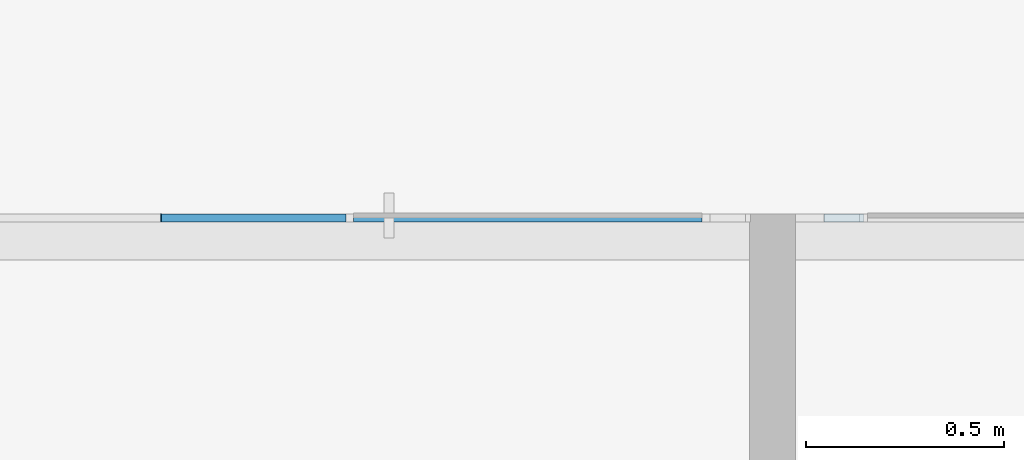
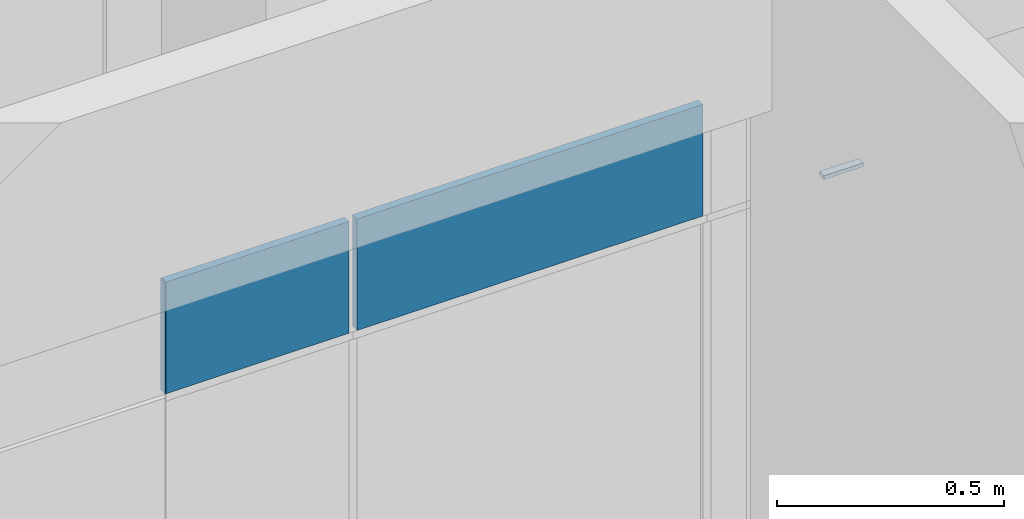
# One storey, part 40 of 73: 4 plates, 2 elements without a shape of their own.
"""IFC2X3 building model written with IfcOpenShell, lengths in millimetres."""

from ifc_helpers import new_model, entity, si_unit, converted_unit, derived_unit, direction, frame, origin, origin_2d_with_axis, place, context, subcontext, project, spatial, rectangle, extrude, source, transform, mapped, material, layer, layer_set, layer_usage, type_object, type_shapes, element, aggregate, save


model = new_model("IFC2X3")

# Units and contexts
model_context = context("Model", 3, precision=0.01, world=origin(), true_north=direction((6.12303176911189e-17, 1.0)))
body_context = subcontext(model_context, "Body", "Model", "MODEL_VIEW")
ifc_project = project(units=[si_unit("LENGTHUNIT", "METRE", prefix="MILLI"), si_unit("AREAUNIT", "SQUARE_METRE"), si_unit("VOLUMEUNIT", "CUBIC_METRE"), converted_unit("PLANEANGLEUNIT", "DEGREE", entity("IfcRatioMeasure", 0.0174532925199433), si_unit("PLANEANGLEUNIT", "RADIAN"), dimensions=[0, 0, 0, 0, 0, 0, 0]), si_unit("MASSUNIT", "GRAM", prefix="KILO"), derived_unit("MASSDENSITYUNIT", [(si_unit("MASSUNIT", "GRAM", prefix="KILO"), 1), (si_unit("LENGTHUNIT", "METRE"), -3)]), si_unit("TIMEUNIT", "SECOND"), si_unit("FREQUENCYUNIT", "HERTZ"), si_unit("THERMODYNAMICTEMPERATUREUNIT", "DEGREE_CELSIUS"), derived_unit("THERMALTRANSMITTANCEUNIT", [(si_unit("MASSUNIT", "GRAM", prefix="KILO"), 1), (si_unit("THERMODYNAMICTEMPERATUREUNIT", "KELVIN"), -1), (si_unit("TIMEUNIT", "SECOND"), -3)]), derived_unit("VOLUMETRICFLOWRATEUNIT", [(si_unit("LENGTHUNIT", "METRE"), 3), (si_unit("TIMEUNIT", "SECOND"), -1)]), si_unit("ELECTRICCURRENTUNIT", "AMPERE"), si_unit("ELECTRICVOLTAGEUNIT", "VOLT"), si_unit("POWERUNIT", "WATT"), si_unit("FORCEUNIT", "NEWTON", prefix="KILO"), si_unit("ILLUMINANCEUNIT", "LUX"), si_unit("LUMINOUSFLUXUNIT", "LUMEN"), si_unit("LUMINOUSINTENSITYUNIT", "CANDELA"), derived_unit("USERDEFINED", [(si_unit("MASSUNIT", "GRAM", prefix="KILO"), -1), (si_unit("LENGTHUNIT", "METRE"), -2), (si_unit("TIMEUNIT", "SECOND"), 3), (si_unit("LUMINOUSFLUXUNIT", "LUMEN"), 1)]), derived_unit("LINEARVELOCITYUNIT", [(si_unit("LENGTHUNIT", "METRE"), 1), (si_unit("TIMEUNIT", "SECOND"), -1)]), si_unit("PRESSUREUNIT", "PASCAL"), derived_unit("USERDEFINED", [(si_unit("LENGTHUNIT", "METRE"), -2), (si_unit("MASSUNIT", "GRAM", prefix="KILO"), 1), (si_unit("TIMEUNIT", "SECOND"), -2)])], contexts=[model_context])

# Site, building, storey
site_placement = place(None, frame((-151.875543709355, 2715.0, 0.0)))
site = spatial("IfcSite", under=ifc_project, at=site_placement, Name="Surface", CompositionType="ELEMENT")
building_placement = place(site_placement, origin())
building = spatial("IfcBuilding", under=site, at=building_placement, CompositionType="ELEMENT")
storey_placement = place(building_placement, frame((0.0, 0.0, 6730.43000000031)))
storey = spatial("IfcBuildingStorey", under=building, at=storey_placement, Name="3 korrus", CompositionType="ELEMENT", Elevation=6730.43000000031)

# Curtain wall, plate
curtain_wall_type_1 = type_object("IfcCurtainWallType", Name="Curtain Wall:Klaassein KLS-17", PredefinedType="NOTDEFINED")
curtain_wall_1_placement = place(storey_placement, frame((0.0, 0.0, -6730.43000000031)))
curtain_wall_1 = element("IfcCurtainWall", 1, at=curtain_wall_1_placement, inside=storey, type_object=curtain_wall_type_1, Name="Curtain Wall:Klaassein KLS-17", ObjectType="Curtain Wall:Klaassein KLS-17")
ifc_material = material(Name="<Unnamed>")
ifc_layer = layer(ifc_material, 20.0)
ifc_layer_set = layer_set([ifc_layer], Name="Curtain Wall:Klaassein KLS-01")
ifc_layer_usage_1 = layer_usage(ifc_layer_set, "AXIS3", "POSITIVE", 0.0)
plate_type_1 = type_object("IfcPlateType", Name="Glazed", PredefinedType="CURTAIN_PANEL", material=ifc_layer_set)
shared_shape_1 = source(origin(), body_context, "Body", "SweptSolid", [
    extrude(rectangle(XDim=20.0, YDim=879.999999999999, at=origin_2d_with_axis()), frame((0.0, 0.0, 0.0), z_axis=(0.0, 0.0, 1.0), x_axis=(0.0, 1.0, 0.0)), (0.0, 0.0, 1.0), 299.999999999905),
])
type_shapes(plate_type_1, [shared_shape_1])
plate_1_placement = place(curtain_wall_1_placement, frame((14841.5647264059, 4355.04493399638, 8830.43000000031)))
plate_1 = element("IfcPlate", 2, at=plate_1_placement, type_object=plate_type_1, material=ifc_layer_usage_1, Name="System Panel:Glazed", ObjectType="Glazed", context=body_context, shape_type="MappedRepresentation", body=[
    mapped(shared_shape_1, transform((0.0, 0.0, 0.0), scale=1.0)),
])

curtain_wall_type_2 = type_object("IfcCurtainWallType", Name="Curtain Wall:Klaassein KLS-18", PredefinedType="NOTDEFINED")
curtain_wall_2_placement = place(storey_placement, frame((0.0, 0.0, -6730.43000000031)))
curtain_wall_2 = element("IfcCurtainWall", 3, at=curtain_wall_2_placement, inside=storey, type_object=curtain_wall_type_2, Name="Curtain Wall:Klaassein KLS-18", ObjectType="Curtain Wall:Klaassein KLS-18")
ifc_layer_usage_2 = layer_usage(ifc_layer_set, "AXIS3", "POSITIVE", 0.0)
plate_type_2 = type_object("IfcPlateType", Name="Glazed", PredefinedType="CURTAIN_PANEL", material=ifc_layer_set)
shared_shape_2 = source(origin(), body_context, "Body", "SweptSolid", [
    extrude(rectangle(XDim=20.0, YDim=99.9999999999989, at=origin_2d_with_axis()), frame((0.0, 0.0, 0.0), z_axis=(0.0, 0.0, 1.0), x_axis=(0.0, 1.0, 0.0)), (0.0, 0.0, 1.0), 9.99999999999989),
])
type_shapes(plate_type_2, [shared_shape_2])
plate_2_placement = place(curtain_wall_2_placement, frame((15639.4201096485, 4355.04493399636, 8820.43000000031)))
plate_2 = element("IfcPlate", 4, at=plate_2_placement, type_object=plate_type_2, material=ifc_layer_usage_2, Name="System Panel:Glazed", ObjectType="Glazed", context=body_context, shape_type="MappedRepresentation", body=[
    mapped(shared_shape_2, transform((0.0, 0.0, 0.0), scale=1.0)),
])
aggregate(curtain_wall_2, [plate_2])

# Plate
ifc_layer_usage_3 = layer_usage(ifc_layer_set, "AXIS3", "POSITIVE", 0.0)
plate_type_3 = type_object("IfcPlateType", Name="Glazed", PredefinedType="CURTAIN_PANEL", material=ifc_layer_set)
shared_shape_3 = source(origin(), body_context, "Body", "SweptSolid", [
    extrude(rectangle(XDim=20.0, YDim=1.99999969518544, at=origin_2d_with_axis()), frame((0.0, 0.0, 0.0), z_axis=(0.0, 0.0, 1.0), x_axis=(0.0, 1.0, 0.0)), (0.0, 0.0, 1.0), 299.999999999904),
])
type_shapes(plate_type_3, [shared_shape_3])
plate_3_placement = place(curtain_wall_1_placement, frame((13914.5647265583, 4355.04493399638, 8830.43000000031)))
plate_3 = element("IfcPlate", 5, at=plate_3_placement, type_object=plate_type_3, material=ifc_layer_usage_3, Name="System Panel:Glazed", ObjectType="Glazed", context=body_context, shape_type="MappedRepresentation", body=[
    mapped(shared_shape_3, transform((0.0, 0.0, 0.0), scale=1.0)),
])

ifc_layer_usage_4 = layer_usage(ifc_layer_set, "AXIS3", "POSITIVE", 0.0)
plate_type_4 = type_object("IfcPlateType", Name="Glazed", PredefinedType="CURTAIN_PANEL", material=ifc_layer_set)
shared_shape_4 = source(origin(), body_context, "Body", "SweptSolid", [
    extrude(rectangle(XDim=20.0, YDim=466.000000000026, at=origin_2d_with_axis()), frame((0.0, 0.0, 0.0), z_axis=(0.0, 0.0, 1.0), x_axis=(0.0, 1.0, 0.0)), (0.0, 0.0, 1.0), 299.999999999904),
])
type_shapes(plate_type_4, [shared_shape_4])
plate_4_placement = place(curtain_wall_1_placement, frame((14148.5647264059, 4355.04493399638, 8830.43000000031)))
plate_4 = element("IfcPlate", 6, at=plate_4_placement, type_object=plate_type_4, material=ifc_layer_usage_4, Name="System Panel:Glazed", ObjectType="Glazed", context=body_context, shape_type="MappedRepresentation", body=[
    mapped(shared_shape_4, transform((0.0, 0.0, 0.0), scale=1.0)),
])

aggregate(curtain_wall_1, [plate_3, plate_4, plate_1])

save(model, "model.ifc")
